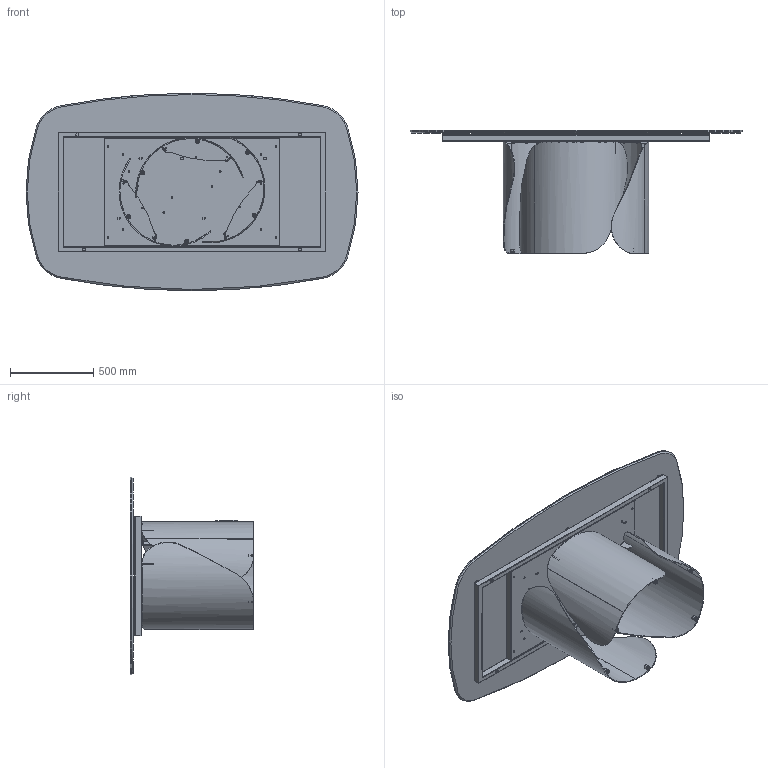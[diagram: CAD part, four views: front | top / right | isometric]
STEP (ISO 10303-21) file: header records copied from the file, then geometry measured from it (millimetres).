
FILE_DESCRIPTION (( 'STEP AP203' ), '1' );
FILE_NAME ('ON40C.STEP', '2024-08-06T13:53:02', ( '' ), ( '' ), 'SwSTEP 2.0', 'SolidWorks 2022', '' );
FILE_SCHEMA (( 'CONFIG_CONTROL_DESIGN' ));
Length unit declared in the file: millimetre
Products named in the file (15): K4XCMXX-00-Piani Sagomati in ceramica_2000 x 1190; COLLO TELAIO UNIVERSALE TTAV0601 CON FERRAMENTA_FERRAMENTA MTG TOP CRISTALLO VERNICIATO-CERAMICA; M8xXXmm_M8x20mm; OND000000_03-00-LAMIERA CURVATA PRINCIPALE_OND00000X-00-ONDA BASE GREZZA PROTOTIPO; TTAV0601_02-00-VASSOIO TAVOLI PLAI ONDA NOA 240; TTAV0601-00-TELAIO X TAVOLI PLAI ONDA NOA 240cm_TTAV06; PIEDINO PER ONDA; 434070-00-PIEDINO TPV GOMMA NERO D. 30x8max18_filo estetico; rondella M8_8X24; OND000000-03-ONDA BASE GREZZA; OND000000_02-00-CILINDRO DI FISSAGGIO Ø25X17 M8; ON40C; OND000000_01-00-PIASTRA SUPERIORE BASE ONDA; COLLO BASE ONDA SINGOLA CON FERRAMENTA; TTAV0601_01-00-STRUTTURA X TAVOLI PLAI ONDA NOA 240
Assembly tree (45 placements, depth 4):
  ON40C
    COLLO TELAIO UNIVERSALE TTAV0601 CON FERRAMENTA_FERRAMENTA MTG TOP CRISTALLO VERNICIATO-CERAMICA
      TTAV0601-00-TELAIO X TAVOLI PLAI ONDA NOA 240cm_TTAV06
        TTAV0601_02-00-VASSOIO TAVOLI PLAI ONDA NOA 240
        TTAV0601_01-00-STRUTTURA X TAVOLI PLAI ONDA NOA 240
      434070-00-PIEDINO TPV GOMMA NERO D. 30x8max18_filo estetico  x6
    COLLO BASE ONDA SINGOLA CON FERRAMENTA  x3
      OND000000-03-ONDA BASE GREZZA
        OND000000_03-00-LAMIERA CURVATA PRINCIPALE_OND00000X-00-ONDA BASE GREZZA PROTOTIPO
        OND000000_01-00-PIASTRA SUPERIORE BASE ONDA
        OND000000_02-00-CILINDRO DI FISSAGGIO Ø25X17 M8  x2
      PIEDINO PER ONDA
    rondella M8_8X24  x12
    M8xXXmm_M8x20mm  x12
    K4XCMXX-00-Piani Sagomati in ceramica_2000 x 1190
Bounding box: 2000 x 742 x 1190 mm (x, y, z)
Volume: 47132175 mm3; surface area: 14955098.2 mm2
Topology: 64 solids, 64 shells, 1572 faces, 3558 edges, 2144 vertices
Faces by surface type: plane 580, cylinder 511, cone 221, torus 192, bspline 60, sphere 8
Entity records: 21944 total; most frequent: CARTESIAN_POINT 4924, DIRECTION 3197, ORIENTED_EDGE 2916, EDGE_CURVE 1458, AXIS2_PLACEMENT_3D 1207, VERTEX_POINT 892, LINE 783, VECTOR 783
